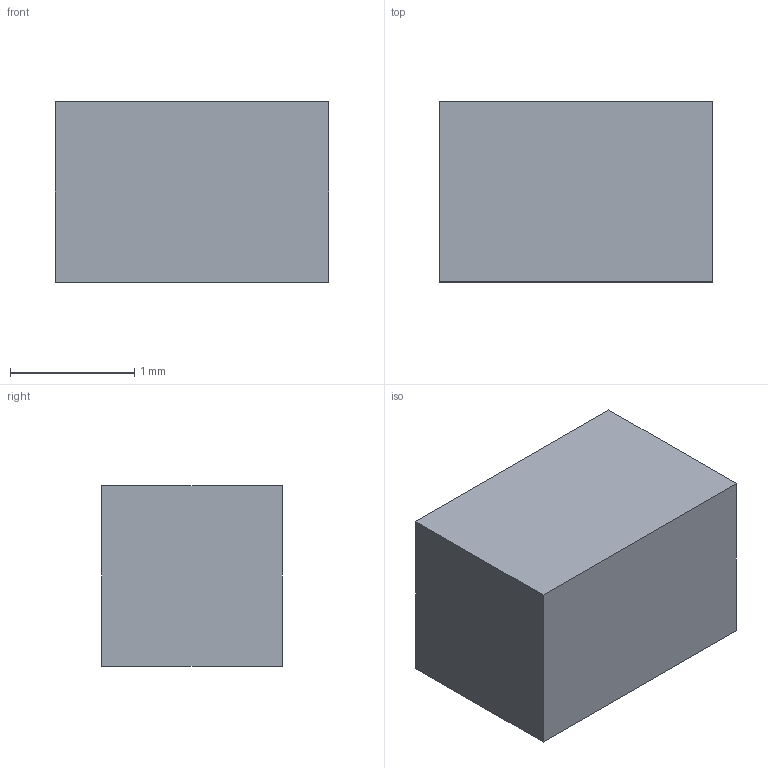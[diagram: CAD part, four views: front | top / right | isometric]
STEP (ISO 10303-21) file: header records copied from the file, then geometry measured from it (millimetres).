
FILE_DESCRIPTION(('Open CASCADE Model'),'2;1');
FILE_NAME('Open CASCADE Shape Model','2026-09-17T14:57:39',('Author'),( 'Open CASCADE'),'Open CASCADE STEP processor 7.8','Open CASCADE 7.8' ,'Unknown');
FILE_SCHEMA(('AUTOMOTIVE_DESIGN { 1 0 10303 214 1 1 1 1 }'));
Length unit declared in the file: millimetre
Products named in the file (1): Open CASCADE STEP translator 7.8 4
Bounding box: 2.2 x 1.45 x 1.45 mm (x, y, z)
Volume: 4.6 mm3; surface area: 17 mm2
Topology: 1 solids, 1 shells, 6 faces, 12 edges, 8 vertices
Faces by surface type: plane 6
Entity records: 322 total; most frequent: CARTESIAN_POINT 51, DIRECTION 50, LINE 36, VECTOR 36, ORIENTED_EDGE 24, PCURVE 24, DEFINITIONAL_REPRESENTATION 24, EDGE_CURVE 12
